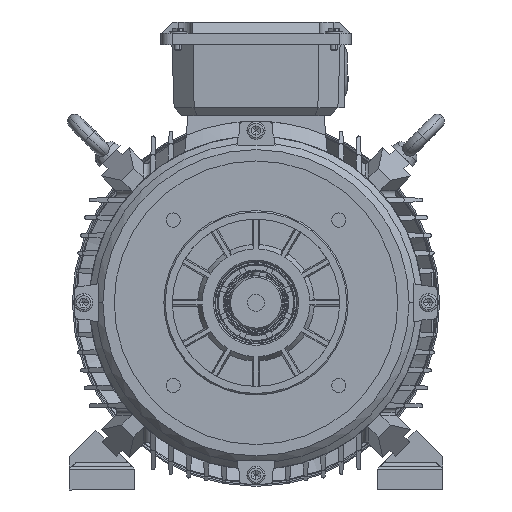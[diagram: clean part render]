
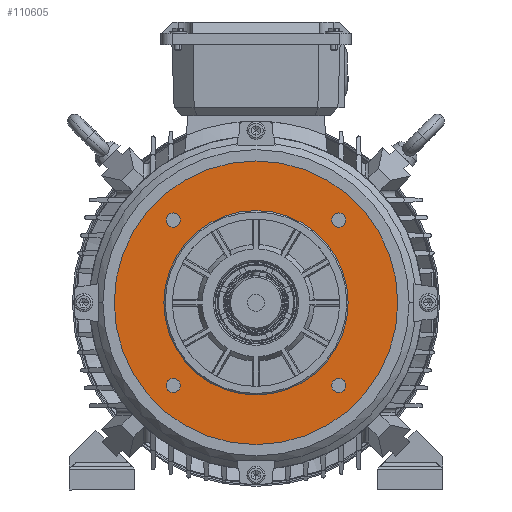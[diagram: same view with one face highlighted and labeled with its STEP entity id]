
A CAD part, left-side view. The second image highlights one B-rep face of the part: STEP entity #110605.
In plain terms, the highlighted planar face has unit normal (-1, 0, 0).
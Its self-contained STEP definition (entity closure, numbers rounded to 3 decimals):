
#1004 = EDGE_CURVE ( 'NONE', #58092, #160758, #50199, .T. ) ;
#2952 = DIRECTION ( 'NONE',  ( 0., 1., 0. ) ) ;
#4536 = AXIS2_PLACEMENT_3D ( 'NONE', #142350, #75227, #128565 ) ;
#5974 = EDGE_CURVE ( 'NONE', #38966, #150610, #55224, .T. ) ;
#9150 = EDGE_LOOP ( 'NONE', ( #42024, #62371 ) ) ;
#9789 = DIRECTION ( 'NONE',  ( -1., 0., 0. ) ) ;
#10169 = AXIS2_PLACEMENT_3D ( 'NONE', #136013, #147396, #122210 ) ;
#10292 = CARTESIAN_POINT ( 'NONE',  ( -156.49, -66.26, -60.325 ) ) ;
#10519 = CARTESIAN_POINT ( 'NONE',  ( -156.49, -66.26, 56.348 ) ) ;
#11393 = ORIENTED_EDGE ( 'NONE', *, *, #5974, .F. ) ;
#11746 = CARTESIAN_POINT ( 'NONE',  ( -156.49, -2.924, -101.988 ) ) ;
#13303 = ORIENTED_EDGE ( 'NONE', *, *, #21399, .F. ) ;
#16739 = DIRECTION ( 'NONE',  ( -1., 0., 0. ) ) ;
#17602 = CARTESIAN_POINT ( 'NONE',  ( -156.49, -61.26, 56.348 ) ) ;
#20164 = AXIS2_PLACEMENT_3D ( 'NONE', #30570, #22378, #131228 ) ;
#21399 = EDGE_CURVE ( 'NONE', #115207, #34833, #22394, .T. ) ;
#22315 = FACE_BOUND ( 'NONE', #48614, .T. ) ;
#22378 = DIRECTION ( 'NONE',  ( -1., 0., 0. ) ) ;
#22394 = CIRCLE ( 'NONE', #95066, 5. ) ;
#26369 = EDGE_LOOP ( 'NONE', ( #13303, #122876 ) ) ;
#29807 = CARTESIAN_POINT ( 'NONE',  ( -156.49, 50.413, -60.325 ) ) ;
#30284 = DIRECTION ( 'NONE',  ( 0., 1., 0. ) ) ;
#30570 = CARTESIAN_POINT ( 'NONE',  ( -156.49, 55.413, 56.348 ) ) ;
#31591 = DIRECTION ( 'NONE',  ( -1., 0., 0. ) ) ;
#33301 = ORIENTED_EDGE ( 'NONE', *, *, #158707, .T. ) ;
#34833 = VERTEX_POINT ( 'NONE', #10519 ) ;
#35733 = DIRECTION ( 'NONE',  ( 0., 1., 0. ) ) ;
#38539 = DIRECTION ( 'NONE',  ( -1., 0., 0. ) ) ;
#38966 = VERTEX_POINT ( 'NONE', #155058 ) ;
#41188 = AXIS2_PLACEMENT_3D ( 'NONE', #124486, #115487, #126889 ) ;
#42024 = ORIENTED_EDGE ( 'NONE', *, *, #147589, .F. ) ;
#42963 = DIRECTION ( 'NONE',  ( 0., 1., 0. ) ) ;
#48614 = EDGE_LOOP ( 'NONE', ( #120697, #151937 ) ) ;
#49061 = DIRECTION ( 'NONE',  ( 0., 0., -1. ) ) ;
#49438 = AXIS2_PLACEMENT_3D ( 'NONE', #140952, #16739, #2952 ) ;
#50199 = CIRCLE ( 'NONE', #117687, 5. ) ;
#50383 = CIRCLE ( 'NONE', #148938, 65. ) ;
#52325 = CARTESIAN_POINT ( 'NONE',  ( -156.49, 55.413, -60.325 ) ) ;
#53777 = EDGE_LOOP ( 'NONE', ( #33301, #155761 ) ) ;
#54178 = CIRCLE ( 'NONE', #41188, 65. ) ;
#54376 = CARTESIAN_POINT ( 'NONE',  ( -156.49, 55.413, 56.348 ) ) ;
#55224 = CIRCLE ( 'NONE', #60442, 5. ) ;
#55286 = EDGE_CURVE ( 'NONE', #34833, #115207, #117132, .T. ) ;
#58092 = VERTEX_POINT ( 'NONE', #29807 ) ;
#59680 = FACE_BOUND ( 'NONE', #80221, .T. ) ;
#60442 = AXIS2_PLACEMENT_3D ( 'NONE', #73878, #9789, #35733 ) ;
#60673 = DIRECTION ( 'NONE',  ( -1., 0., 0. ) ) ;
#61439 = AXIS2_PLACEMENT_3D ( 'NONE', #134823, #82087, #156815 ) ;
#62371 = ORIENTED_EDGE ( 'NONE', *, *, #144342, .F. ) ;
#63442 = EDGE_CURVE ( 'NONE', #160758, #58092, #126466, .T. ) ;
#67687 = CIRCLE ( 'NONE', #49438, 5. ) ;
#67926 = AXIS2_PLACEMENT_3D ( 'NONE', #11746, #145766, #49061 ) ;
#69222 = CIRCLE ( 'NONE', #82158, 5. ) ;
#71852 = FACE_BOUND ( 'NONE', #26369, .T. ) ;
#73878 = CARTESIAN_POINT ( 'NONE',  ( -156.49, -61.26, -60.325 ) ) ;
#74515 = CIRCLE ( 'NONE', #20164, 5. ) ;
#75227 = DIRECTION ( 'NONE',  ( -1., 0., 0. ) ) ;
#75256 = EDGE_LOOP ( 'NONE', ( #11393, #94670 ) ) ;
#76132 = CARTESIAN_POINT ( 'NONE',  ( -156.49, 62.076, -1.988 ) ) ;
#77881 = CARTESIAN_POINT ( 'NONE',  ( -156.49, 60.413, -60.325 ) ) ;
#80221 = EDGE_LOOP ( 'NONE', ( #94807, #124811 ) ) ;
#80779 = EDGE_CURVE ( 'NONE', #104759, #151089, #74515, .T. ) ;
#82087 = DIRECTION ( 'NONE',  ( -1., 0., 0. ) ) ;
#82158 = AXIS2_PLACEMENT_3D ( 'NONE', #54376, #31591, #42963 ) ;
#84001 = FACE_BOUND ( 'NONE', #9150, .T. ) ;
#85889 = AXIS2_PLACEMENT_3D ( 'NONE', #17602, #128834, #159989 ) ;
#87921 = CIRCLE ( 'NONE', #10169, 100. ) ;
#93500 = VERTEX_POINT ( 'NONE', #76132 ) ;
#94670 = ORIENTED_EDGE ( 'NONE', *, *, #102286, .F. ) ;
#94807 = ORIENTED_EDGE ( 'NONE', *, *, #63442, .F. ) ;
#95066 = AXIS2_PLACEMENT_3D ( 'NONE', #114793, #60673, #110140 ) ;
#98940 = VERTEX_POINT ( 'NONE', #143943 ) ;
#99123 = CARTESIAN_POINT ( 'NONE',  ( -156.49, 97.076, -1.988 ) ) ;
#102286 = EDGE_CURVE ( 'NONE', #150610, #38966, #67687, .T. ) ;
#104759 = VERTEX_POINT ( 'NONE', #149994 ) ;
#110140 = DIRECTION ( 'NONE',  ( 0., 1., 0. ) ) ;
#110605 = ADVANCED_FACE ( 'NONE', ( #144956, #71852, #22315, #59680, #160324, #84001 ), #146553, .F. ) ;
#114793 = CARTESIAN_POINT ( 'NONE',  ( -156.49, -61.26, 56.348 ) ) ;
#115207 = VERTEX_POINT ( 'NONE', #155286 ) ;
#115487 = DIRECTION ( 'NONE',  ( -1., 0., 0. ) ) ;
#116605 = VERTEX_POINT ( 'NONE', #134712 ) ;
#117132 = CIRCLE ( 'NONE', #85889, 5. ) ;
#117687 = AXIS2_PLACEMENT_3D ( 'NONE', #52325, #38539, #125421 ) ;
#120697 = ORIENTED_EDGE ( 'NONE', *, *, #158857, .F. ) ;
#120907 = EDGE_CURVE ( 'NONE', #98940, #150173, #87921, .T. ) ;
#122210 = DIRECTION ( 'NONE',  ( 0., 1., 0. ) ) ;
#122876 = ORIENTED_EDGE ( 'NONE', *, *, #55286, .F. ) ;
#124486 = CARTESIAN_POINT ( 'NONE',  ( -156.49, -2.924, -1.988 ) ) ;
#124811 = ORIENTED_EDGE ( 'NONE', *, *, #1004, .F. ) ;
#125421 = DIRECTION ( 'NONE',  ( 0., 1., 0. ) ) ;
#126466 = CIRCLE ( 'NONE', #4536, 5. ) ;
#126889 = DIRECTION ( 'NONE',  ( 0., 1., 0. ) ) ;
#127749 = CARTESIAN_POINT ( 'NONE',  ( -156.49, -2.924, -1.988 ) ) ;
#128565 = DIRECTION ( 'NONE',  ( 0., 1., 0. ) ) ;
#128834 = DIRECTION ( 'NONE',  ( -1., 0., 0. ) ) ;
#130751 = CARTESIAN_POINT ( 'NONE',  ( -156.49, 60.413, 56.348 ) ) ;
#131228 = DIRECTION ( 'NONE',  ( 0., 1., 0. ) ) ;
#134712 = CARTESIAN_POINT ( 'NONE',  ( -156.49, -67.924, -1.988 ) ) ;
#134823 = CARTESIAN_POINT ( 'NONE',  ( -156.49, -2.924, -1.988 ) ) ;
#136013 = CARTESIAN_POINT ( 'NONE',  ( -156.49, -2.924, -1.988 ) ) ;
#140952 = CARTESIAN_POINT ( 'NONE',  ( -156.49, -61.26, -60.325 ) ) ;
#142350 = CARTESIAN_POINT ( 'NONE',  ( -156.49, 55.413, -60.325 ) ) ;
#143943 = CARTESIAN_POINT ( 'NONE',  ( -156.49, -102.924, -1.988 ) ) ;
#144342 = EDGE_CURVE ( 'NONE', #116605, #93500, #50383, .T. ) ;
#144956 = FACE_OUTER_BOUND ( 'NONE', #53777, .T. ) ;
#145766 = DIRECTION ( 'NONE',  ( 1., 0., 0. ) ) ;
#146553 = PLANE ( 'NONE',  #67926 ) ;
#147396 = DIRECTION ( 'NONE',  ( -1., 0., 0. ) ) ;
#147589 = EDGE_CURVE ( 'NONE', #93500, #116605, #54178, .T. ) ;
#148938 = AXIS2_PLACEMENT_3D ( 'NONE', #127749, #153708, #30284 ) ;
#149535 = CIRCLE ( 'NONE', #61439, 100. ) ;
#149994 = CARTESIAN_POINT ( 'NONE',  ( -156.49, 50.413, 56.348 ) ) ;
#150173 = VERTEX_POINT ( 'NONE', #99123 ) ;
#150610 = VERTEX_POINT ( 'NONE', #10292 ) ;
#151089 = VERTEX_POINT ( 'NONE', #130751 ) ;
#151937 = ORIENTED_EDGE ( 'NONE', *, *, #80779, .F. ) ;
#153708 = DIRECTION ( 'NONE',  ( -1., 0., 0. ) ) ;
#155058 = CARTESIAN_POINT ( 'NONE',  ( -156.49, -56.26, -60.325 ) ) ;
#155286 = CARTESIAN_POINT ( 'NONE',  ( -156.49, -56.26, 56.348 ) ) ;
#155761 = ORIENTED_EDGE ( 'NONE', *, *, #120907, .T. ) ;
#156815 = DIRECTION ( 'NONE',  ( 0., 1., 0. ) ) ;
#158707 = EDGE_CURVE ( 'NONE', #150173, #98940, #149535, .T. ) ;
#158857 = EDGE_CURVE ( 'NONE', #151089, #104759, #69222, .T. ) ;
#159989 = DIRECTION ( 'NONE',  ( 0., 1., 0. ) ) ;
#160324 = FACE_BOUND ( 'NONE', #75256, .T. ) ;
#160758 = VERTEX_POINT ( 'NONE', #77881 ) ;
